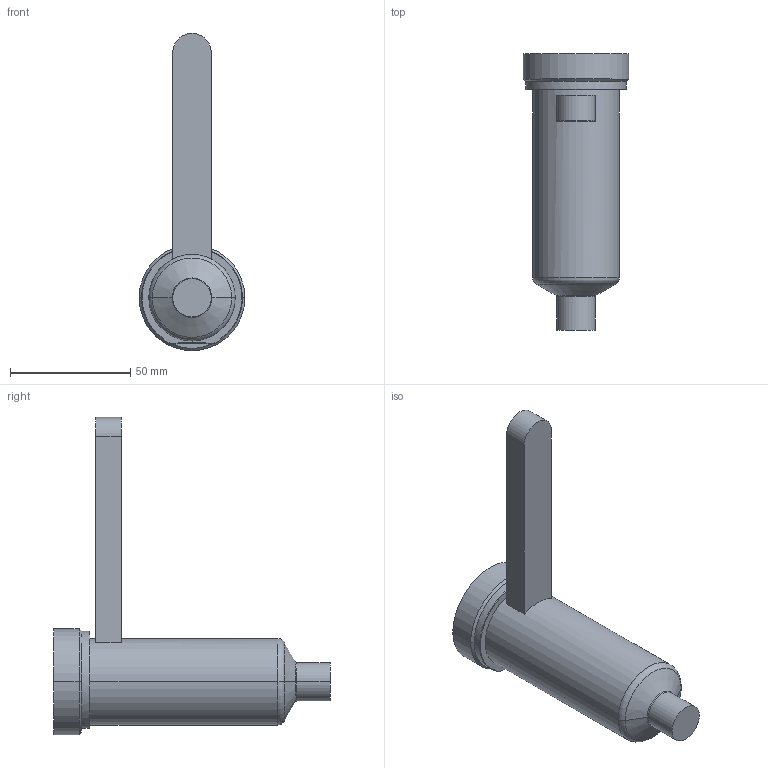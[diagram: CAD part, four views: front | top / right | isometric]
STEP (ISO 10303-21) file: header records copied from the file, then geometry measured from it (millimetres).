
FILE_DESCRIPTION((''),'2;1');
FILE_NAME('EO12_VG-FBE_STD_090_COT','2024-02-19T14:03:58',('sundharh'),(''),'CREO PARAMETRIC BY PTC INC, 2023154','CREO PARAMETRIC BY PTC INC, 2023154','');
FILE_SCHEMA(('CONFIG_CONTROL_DESIGN'));
Length unit declared in the file: millimetre
Products named in the file (1): EO12_VG-FBE_STD_090_COT
Bounding box: 44 x 115 x 132 mm (x, y, z)
Volume: 124866.1 mm3; surface area: 19644.9 mm2
Topology: 1 solids, 1 shells, 31 faces, 67 edges, 40 vertices
Faces by surface type: cylinder 11, plane 9, torus 7, cone 4
Entity records: 951 total; most frequent: CARTESIAN_POINT 218, DIRECTION 159, ORIENTED_EDGE 134, AXIS2_PLACEMENT_3D 67, EDGE_CURVE 67, VERTEX_POINT 40, CIRCLE 36, EDGE_LOOP 33
